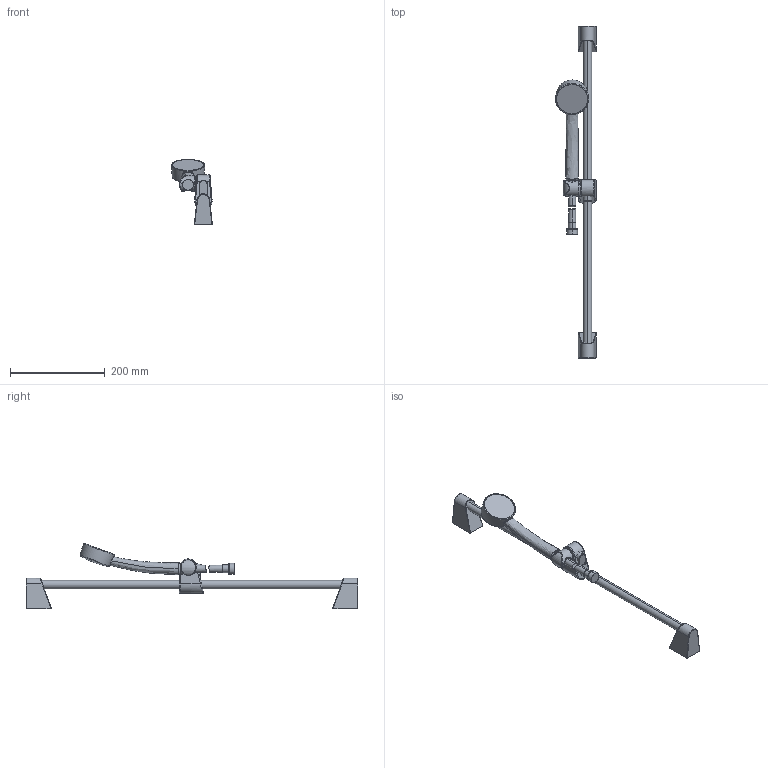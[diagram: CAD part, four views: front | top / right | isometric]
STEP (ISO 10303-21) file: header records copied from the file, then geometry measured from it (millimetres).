
FILE_DESCRIPTION (( 'STEP AP203' ), '1' );
FILE_NAME ('522-11.STEP', '2019-08-27T07:40:33', ( '' ), ( '' ), 'SwSTEP 2.0', 'SolidWorks 2016', '' );
FILE_SCHEMA (( 'CONFIG_CONTROL_DESIGN' ));
Length unit declared in the file: millimetre
Products named in the file (1): 522-11
Bounding box: 86.34 x 701 x 137.64 mm (x, y, z)
Volume: 655147.4 mm3; surface area: 113740.7 mm2
Topology: 9 solids, 9 shells, 161 faces, 348 edges, 210 vertices
Faces by surface type: cylinder 48, bspline 45, plane 35, torus 22, cone 11
Entity records: 12170 total; most frequent: CARTESIAN_POINT 8984, ORIENTED_EDGE 692, DIRECTION 571, EDGE_CURVE 346, AXIS2_PLACEMENT_3D 238, VERTEX_POINT 210, EDGE_LOOP 168, ADVANCED_FACE 161
